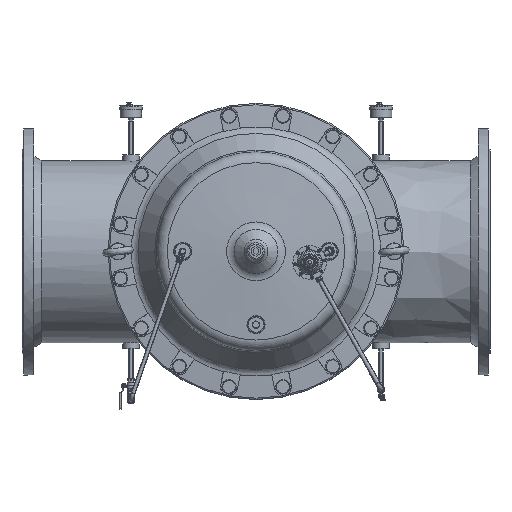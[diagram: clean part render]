
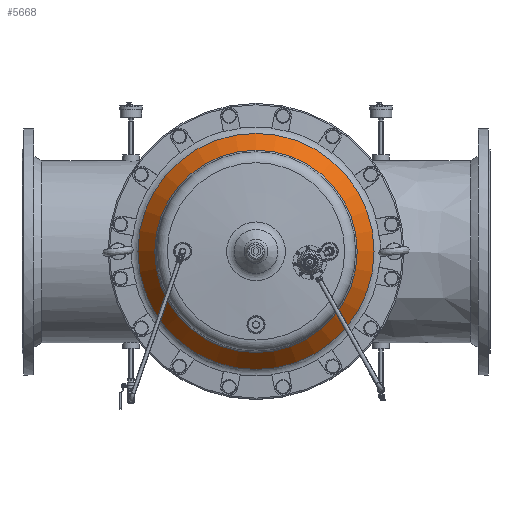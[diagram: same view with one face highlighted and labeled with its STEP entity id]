
A CAD part, top view. The second image highlights one B-rep face of the part: STEP entity #5668.
In plain terms, the highlighted conical face has half-angle 35.538 degrees and reference radius 257.721 mm.
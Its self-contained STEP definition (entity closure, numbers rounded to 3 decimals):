
#5668=ADVANCED_FACE('',(#18659,#18661),#18663,.T.);
#18659=FACE_OUTER_BOUND('',#18660,.T.);
#18660=EDGE_LOOP('',(#44122));
#18661=FACE_OUTER_BOUND('',#18662,.T.);
#18662=EDGE_LOOP('',(#44123));
#18663=CONICAL_SURFACE('',#18664,257.721,0.62);
#18664=AXIS2_PLACEMENT_3D('',#18665,#18666,#18667);
#18665=CARTESIAN_POINT('',(0.,-55.277,0.));
#18666=DIRECTION('',(0.,1.,0.));
#18667=DIRECTION('',(-1.,0.,0.));
#44122=ORIENTED_EDGE('',*,*,#51261,.F.);
#44123=ORIENTED_EDGE('',*,*,#51241,.F.);
#51241=EDGE_CURVE('',#56148,#56148,#56149,.T.);
#51261=EDGE_CURVE('',#56188,#56188,#56189,.F.);
#56148=VERTEX_POINT('',#80567);
#56149=CIRCLE('',#80568,237.912);
#56188=VERTEX_POINT('',#80667);
#56189=CIRCLE('',#80668,277.53);
#80567=CARTESIAN_POINT('',(237.912,-83.01,0.));
#80568=AXIS2_PLACEMENT_3D('',#80569,#80570,#80571);
#80569=CARTESIAN_POINT('',(0.,-83.01,0.));
#80570=DIRECTION('',(0.,-1.,0.));
#80571=DIRECTION('',(1.,0.,0.));
#80667=CARTESIAN_POINT('',(277.53,-27.544,0.));
#80668=AXIS2_PLACEMENT_3D('',#80669,#80670,#80671);
#80669=CARTESIAN_POINT('',(0.,-27.544,0.));
#80670=DIRECTION('',(0.,-1.,0.));
#80671=DIRECTION('',(1.,0.,0.));
